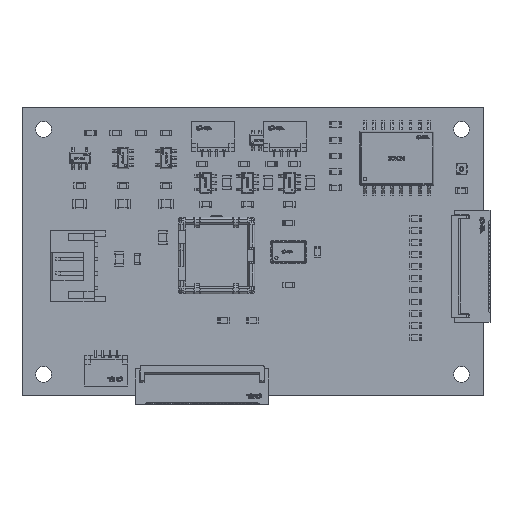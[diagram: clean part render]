
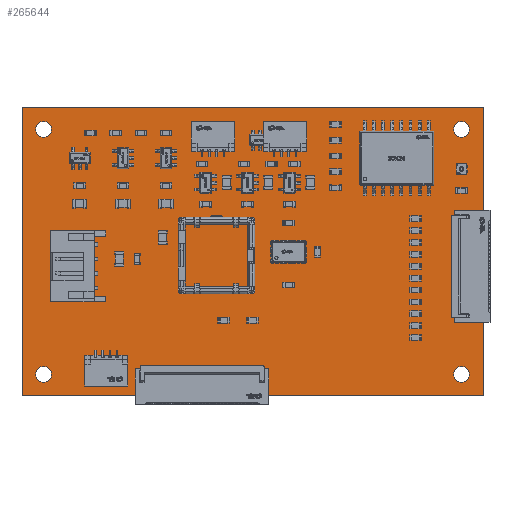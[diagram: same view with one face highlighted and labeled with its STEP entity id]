
A CAD part, top view. The second image highlights one B-rep face of the part: STEP entity #265644.
In plain terms, the highlighted planar face has unit normal (0, 0, 1).
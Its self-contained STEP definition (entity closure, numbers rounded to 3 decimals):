
#265444 = VERTEX_POINT('',#265445);
#265445 = CARTESIAN_POINT('',(164.,-120.,1.51));
#265451 = EDGE_CURVE('',#265444,#265452,#265454,.T.);
#265452 = VERTEX_POINT('',#265453);
#265453 = CARTESIAN_POINT('',(100.,-120.,1.51));
#265454 = LINE('',#265455,#265456);
#265455 = CARTESIAN_POINT('',(164.,-120.,1.51));
#265456 = VECTOR('',#265457,1.);
#265457 = DIRECTION('',(-1.,0.,0.));
#265484 = VERTEX_POINT('',#265485);
#265485 = CARTESIAN_POINT('',(164.,-80.,1.51));
#265491 = EDGE_CURVE('',#265484,#265444,#265492,.T.);
#265492 = LINE('',#265493,#265494);
#265493 = CARTESIAN_POINT('',(164.,-80.,1.51));
#265494 = VECTOR('',#265495,1.);
#265495 = DIRECTION('',(0.,-1.,0.));
#265513 = EDGE_CURVE('',#265452,#265514,#265516,.T.);
#265514 = VERTEX_POINT('',#265515);
#265515 = CARTESIAN_POINT('',(100.,-80.,1.51));
#265516 = LINE('',#265517,#265518);
#265517 = CARTESIAN_POINT('',(100.,-120.,1.51));
#265518 = VECTOR('',#265519,1.);
#265519 = DIRECTION('',(0.,1.,0.));
#265644 = ADVANCED_FACE('',(#265645,#265656,#265667,#265678,#265689,
    #265700,#265711,#265722,#265733),#265744,.T.);
#265645 = FACE_BOUND('',#265646,.T.);
#265646 = EDGE_LOOP('',(#265647,#265648,#265649,#265655));
#265647 = ORIENTED_EDGE('',*,*,#265451,.F.);
#265648 = ORIENTED_EDGE('',*,*,#265491,.F.);
#265649 = ORIENTED_EDGE('',*,*,#265650,.F.);
#265650 = EDGE_CURVE('',#265514,#265484,#265651,.T.);
#265651 = LINE('',#265652,#265653);
#265652 = CARTESIAN_POINT('',(100.,-80.,1.51));
#265653 = VECTOR('',#265654,1.);
#265654 = DIRECTION('',(1.,0.,0.));
#265655 = ORIENTED_EDGE('',*,*,#265513,.F.);
#265656 = FACE_BOUND('',#265657,.T.);
#265657 = EDGE_LOOP('',(#265658));
#265658 = ORIENTED_EDGE('',*,*,#265659,.T.);
#265659 = EDGE_CURVE('',#265660,#265660,#265662,.T.);
#265660 = VERTEX_POINT('',#265661);
#265661 = CARTESIAN_POINT('',(103.,-118.1,1.51));
#265662 = CIRCLE('',#265663,1.1);
#265663 = AXIS2_PLACEMENT_3D('',#265664,#265665,#265666);
#265664 = CARTESIAN_POINT('',(103.,-117.,1.51));
#265665 = DIRECTION('',(-0.,0.,-1.));
#265666 = DIRECTION('',(-0.,-1.,0.));
#265667 = FACE_BOUND('',#265668,.T.);
#265668 = EDGE_LOOP('',(#265669));
#265669 = ORIENTED_EDGE('',*,*,#265670,.T.);
#265670 = EDGE_CURVE('',#265671,#265671,#265673,.T.);
#265671 = VERTEX_POINT('',#265672);
#265672 = CARTESIAN_POINT('',(107.,-105.5,1.51));
#265673 = CIRCLE('',#265674,0.5);
#265674 = AXIS2_PLACEMENT_3D('',#265675,#265676,#265677);
#265675 = CARTESIAN_POINT('',(107.,-105.,1.51));
#265676 = DIRECTION('',(-0.,0.,-1.));
#265677 = DIRECTION('',(-0.,-1.,0.));
#265678 = FACE_BOUND('',#265679,.T.);
#265679 = EDGE_LOOP('',(#265680));
#265680 = ORIENTED_EDGE('',*,*,#265681,.T.);
#265681 = EDGE_CURVE('',#265682,#265682,#265684,.T.);
#265682 = VERTEX_POINT('',#265683);
#265683 = CARTESIAN_POINT('',(107.,-103.5,1.51));
#265684 = CIRCLE('',#265685,0.5);
#265685 = AXIS2_PLACEMENT_3D('',#265686,#265687,#265688);
#265686 = CARTESIAN_POINT('',(107.,-103.,1.51));
#265687 = DIRECTION('',(-0.,0.,-1.));
#265688 = DIRECTION('',(-0.,-1.,0.));
#265689 = FACE_BOUND('',#265690,.T.);
#265690 = EDGE_LOOP('',(#265691));
#265691 = ORIENTED_EDGE('',*,*,#265692,.T.);
#265692 = EDGE_CURVE('',#265693,#265693,#265695,.T.);
#265693 = VERTEX_POINT('',#265694);
#265694 = CARTESIAN_POINT('',(107.,-101.5,1.51));
#265695 = CIRCLE('',#265696,0.5);
#265696 = AXIS2_PLACEMENT_3D('',#265697,#265698,#265699);
#265697 = CARTESIAN_POINT('',(107.,-101.,1.51));
#265698 = DIRECTION('',(-0.,0.,-1.));
#265699 = DIRECTION('',(-0.,-1.,0.));
#265700 = FACE_BOUND('',#265701,.T.);
#265701 = EDGE_LOOP('',(#265702));
#265702 = ORIENTED_EDGE('',*,*,#265703,.T.);
#265703 = EDGE_CURVE('',#265704,#265704,#265706,.T.);
#265704 = VERTEX_POINT('',#265705);
#265705 = CARTESIAN_POINT('',(161.,-118.1,1.51));
#265706 = CIRCLE('',#265707,1.1);
#265707 = AXIS2_PLACEMENT_3D('',#265708,#265709,#265710);
#265708 = CARTESIAN_POINT('',(161.,-117.,1.51));
#265709 = DIRECTION('',(-0.,0.,-1.));
#265710 = DIRECTION('',(-0.,-1.,0.));
#265711 = FACE_BOUND('',#265712,.T.);
#265712 = EDGE_LOOP('',(#265713));
#265713 = ORIENTED_EDGE('',*,*,#265714,.T.);
#265714 = EDGE_CURVE('',#265715,#265715,#265717,.T.);
#265715 = VERTEX_POINT('',#265716);
#265716 = CARTESIAN_POINT('',(107.,-99.5,1.51));
#265717 = CIRCLE('',#265718,0.5);
#265718 = AXIS2_PLACEMENT_3D('',#265719,#265720,#265721);
#265719 = CARTESIAN_POINT('',(107.,-99.,1.51));
#265720 = DIRECTION('',(-0.,0.,-1.));
#265721 = DIRECTION('',(-0.,-1.,0.));
#265722 = FACE_BOUND('',#265723,.T.);
#265723 = EDGE_LOOP('',(#265724));
#265724 = ORIENTED_EDGE('',*,*,#265725,.T.);
#265725 = EDGE_CURVE('',#265726,#265726,#265728,.T.);
#265726 = VERTEX_POINT('',#265727);
#265727 = CARTESIAN_POINT('',(103.,-84.1,1.51));
#265728 = CIRCLE('',#265729,1.1);
#265729 = AXIS2_PLACEMENT_3D('',#265730,#265731,#265732);
#265730 = CARTESIAN_POINT('',(103.,-83.,1.51));
#265731 = DIRECTION('',(-0.,0.,-1.));
#265732 = DIRECTION('',(-0.,-1.,0.));
#265733 = FACE_BOUND('',#265734,.T.);
#265734 = EDGE_LOOP('',(#265735));
#265735 = ORIENTED_EDGE('',*,*,#265736,.T.);
#265736 = EDGE_CURVE('',#265737,#265737,#265739,.T.);
#265737 = VERTEX_POINT('',#265738);
#265738 = CARTESIAN_POINT('',(161.,-84.1,1.51));
#265739 = CIRCLE('',#265740,1.1);
#265740 = AXIS2_PLACEMENT_3D('',#265741,#265742,#265743);
#265741 = CARTESIAN_POINT('',(161.,-83.,1.51));
#265742 = DIRECTION('',(-0.,0.,-1.));
#265743 = DIRECTION('',(-0.,-1.,0.));
#265744 = PLANE('',#265745);
#265745 = AXIS2_PLACEMENT_3D('',#265746,#265747,#265748);
#265746 = CARTESIAN_POINT('',(0.,0.,1.51));
#265747 = DIRECTION('',(0.,0.,1.));
#265748 = DIRECTION('',(1.,0.,-0.));
